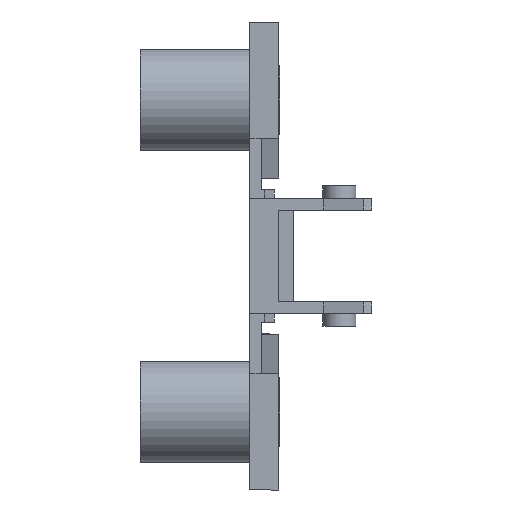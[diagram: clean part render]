
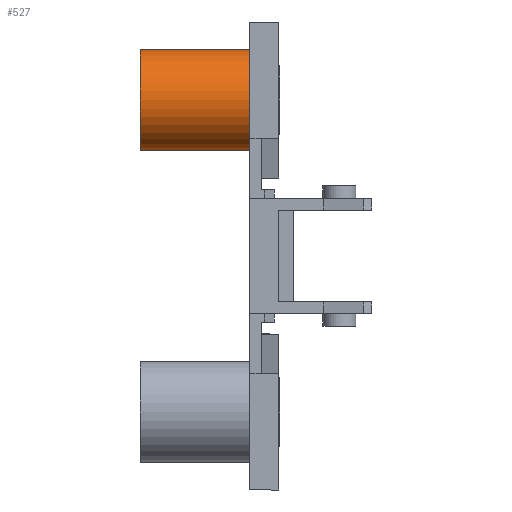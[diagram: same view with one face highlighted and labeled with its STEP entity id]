
A CAD part, front view. The second image highlights one B-rep face of the part: STEP entity #527.
In plain terms, the highlighted cylindrical face has radius 5.2 mm (diameter 10.4 mm), a partial arc.
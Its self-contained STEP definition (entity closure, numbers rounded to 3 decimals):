
#93 = CARTESIAN_POINT ( 'NONE',  ( -13.2, 0., 16. ) ) ;
#194 = LINE ( 'NONE', #2428, #1209 ) ;
#214 = CARTESIAN_POINT ( 'NONE',  ( -13.2, 0., 10.8 ) ) ;
#308 = DIRECTION ( 'NONE',  ( 0., 0., -1. ) ) ;
#361 = CARTESIAN_POINT ( 'NONE',  ( -2., 0., 21.2 ) ) ;
#527 = ADVANCED_FACE ( 'NONE', ( #1474 ), #2781, .T. ) ;
#637 = DIRECTION ( 'NONE',  ( 0., 0., 1. ) ) ;
#692 = EDGE_CURVE ( 'NONE', #3580, #2235, #3485, .T. ) ;
#694 = AXIS2_PLACEMENT_3D ( 'NONE', #1719, #3387, #308 ) ;
#733 = VERTEX_POINT ( 'NONE', #3606 ) ;
#748 = DIRECTION ( 'NONE',  ( 1., 0., 0. ) ) ;
#944 = CARTESIAN_POINT ( 'NONE',  ( -13.2, 0., 10.8 ) ) ;
#951 = ORIENTED_EDGE ( 'NONE', *, *, #2258, .T. ) ;
#957 = CARTESIAN_POINT ( 'NONE',  ( -13.2, 0., 16. ) ) ;
#1038 = EDGE_LOOP ( 'NONE', ( #2457, #3030, #2450, #951 ) ) ;
#1202 = CIRCLE ( 'NONE', #2827, 5.2 ) ;
#1209 = VECTOR ( 'NONE', #748, 1000. ) ;
#1474 = FACE_OUTER_BOUND ( 'NONE', #1038, .T. ) ;
#1719 = CARTESIAN_POINT ( 'NONE',  ( -2., 0., 16. ) ) ;
#1744 = EDGE_CURVE ( 'NONE', #733, #1981, #194, .T. ) ;
#1981 = VERTEX_POINT ( 'NONE', #361 ) ;
#2235 = VERTEX_POINT ( 'NONE', #3063 ) ;
#2258 = EDGE_CURVE ( 'NONE', #2235, #1981, #3300, .T. ) ;
#2401 = EDGE_CURVE ( 'NONE', #3580, #733, #1202, .T. ) ;
#2428 = CARTESIAN_POINT ( 'NONE',  ( -13.2, 0., 21.2 ) ) ;
#2450 = ORIENTED_EDGE ( 'NONE', *, *, #692, .T. ) ;
#2457 = ORIENTED_EDGE ( 'NONE', *, *, #1744, .F. ) ;
#2781 = CYLINDRICAL_SURFACE ( 'NONE', #2812, 5.2 ) ;
#2812 = AXIS2_PLACEMENT_3D ( 'NONE', #957, #3320, #3000 ) ;
#2827 = AXIS2_PLACEMENT_3D ( 'NONE', #93, #2888, #637 ) ;
#2888 = DIRECTION ( 'NONE',  ( -1., 0., 0. ) ) ;
#3000 = DIRECTION ( 'NONE',  ( 0., 0., -1. ) ) ;
#3002 = VECTOR ( 'NONE', #3017, 1000. ) ;
#3017 = DIRECTION ( 'NONE',  ( 1., 0., 0. ) ) ;
#3030 = ORIENTED_EDGE ( 'NONE', *, *, #2401, .F. ) ;
#3063 = CARTESIAN_POINT ( 'NONE',  ( -2., 0., 10.8 ) ) ;
#3300 = CIRCLE ( 'NONE', #694, 5.2 ) ;
#3320 = DIRECTION ( 'NONE',  ( 1., 0., 0. ) ) ;
#3387 = DIRECTION ( 'NONE',  ( -1., 0., 0. ) ) ;
#3485 = LINE ( 'NONE', #214, #3002 ) ;
#3580 = VERTEX_POINT ( 'NONE', #944 ) ;
#3606 = CARTESIAN_POINT ( 'NONE',  ( -13.2, 0., 21.2 ) ) ;
